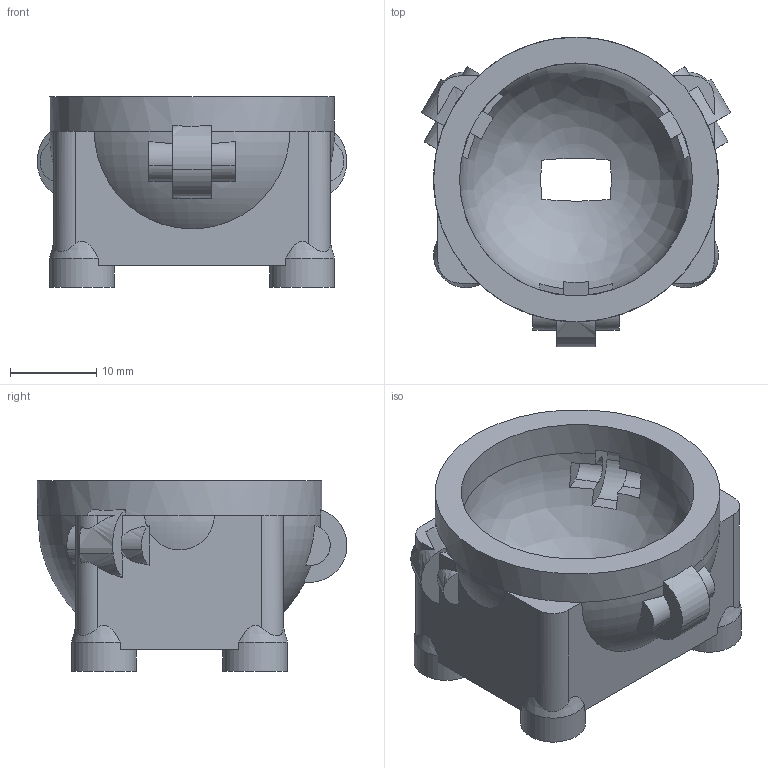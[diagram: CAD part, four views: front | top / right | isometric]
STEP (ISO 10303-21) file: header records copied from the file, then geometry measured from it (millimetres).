
FILE_DESCRIPTION(('Open CASCADE Model'),'2;1');
FILE_NAME('Open CASCADE Shape Model','2026-05-31T19:43:02',('Author'),( 'Open CASCADE'),'Open CASCADE STEP processor 7.6','Open CASCADE 7.6' ,'Unknown');
FILE_SCHEMA(('AP242_MANAGED_MODEL_BASED_3D_ENGINEERING_MIM_LF. {1 0 10303 442 1 1 4 }'));
Length unit declared in the file: millimetre
Products named in the file (1): Open CASCADE STEP translator 7.6 3
Bounding box: 35.84 x 35.89 x 22.1 mm (x, y, z)
Volume: 8586.2 mm3; surface area: 5809.2 mm2
Topology: 1 solids, 1 shells, 148 faces, 412 edges, 271 vertices
Faces by surface type: plane 81, extrusion 36, cylinder 18, revolution 5, bspline 4, cone 4
Full cylindrical faces by diameter (mm): 3.5 x4, 7.5 x4, 27 x1, 33 x1
Entity records: 21164 total; most frequent: CARTESIAN_POINT 13381, DIRECTION 1296, ORIENTED_EDGE 824, PCURVE 824, DEFINITIONAL_REPRESENTATION 824, VECTOR 674, LINE 638, EDGE_CURVE 412
